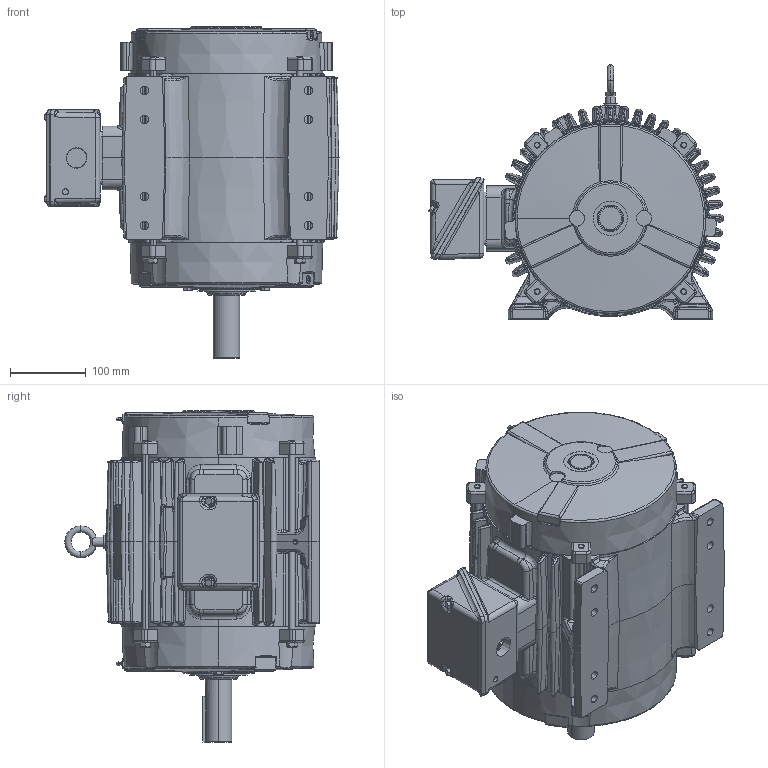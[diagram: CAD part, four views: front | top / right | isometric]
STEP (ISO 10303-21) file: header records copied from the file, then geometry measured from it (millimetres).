
FILE_DESCRIPTION (( 'STEP AP203' ), '1' );
FILE_NAME ('SS85995-875_F2_Rev08.STEP', '2018-12-17T05:26:58', ( '' ), ( '' ), 'SwSTEP 2.0', 'SolidWorks 2015', '' );
FILE_SCHEMA (( 'CONFIG_CONTROL_DESIGN' ));
Length unit declared in the file: inch
Products named in the file (1): SS85995-875_F2_Rev08
Bounding box: 388.47 x 335.23 x 437.48 mm (x, y, z)
Volume: 5628971.8 mm3; surface area: 1274305 mm2
Topology: 24 solids, 24 shells, 2586 faces, 6309 edges, 3727 vertices
Faces by surface type: bspline 785, plane 623, cylinder 567, cone 301, torus 266, sphere 44
Entity records: 112825 total; most frequent: CARTESIAN_POINT 59055, ORIENTED_EDGE 12432, DIRECTION 9800, EDGE_CURVE 6216, AXIS2_PLACEMENT_3D 4087, VERTEX_POINT 3727, EDGE_LOOP 2717, FACE_OUTER_BOUND 2586
